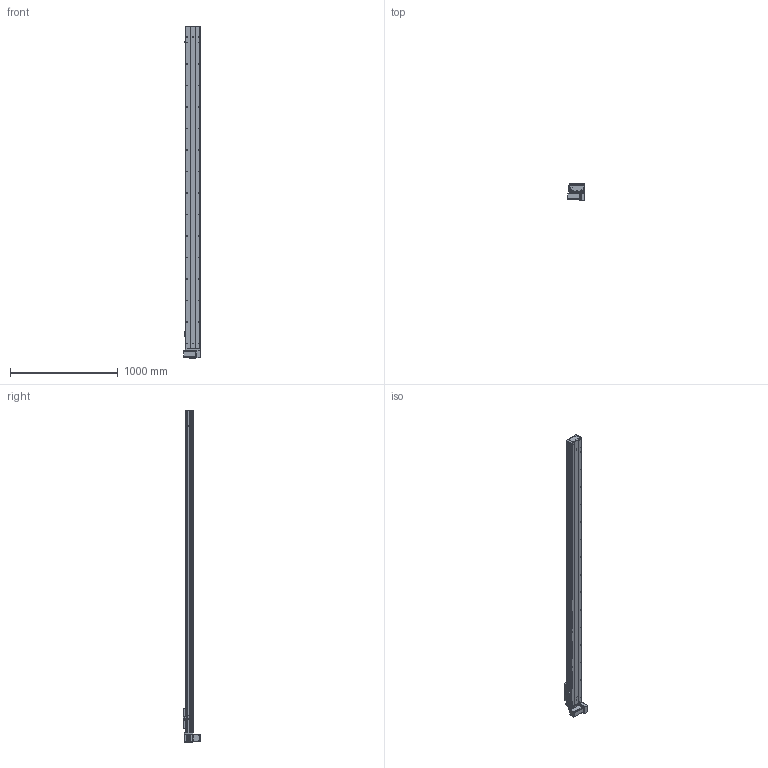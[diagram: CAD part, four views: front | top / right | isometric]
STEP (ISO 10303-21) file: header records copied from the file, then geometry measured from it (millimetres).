
FILE_DESCRIPTION (( 'STEP AP203' ), '1' );
FILE_NAME ('Y135CB-D90-S2700-BM-P400W.STEP', '2020-02-19T02:33:48', ( '微软用户' ), ( '微软中国' ), 'SwSTEP 2.0', 'SolidWorks 2017', '' );
FILE_SCHEMA (( 'CONFIG_CONTROL_DESIGN' ));
Length unit declared in the file: millimetre
Products named in the file (18): Y10B--々湍喘謫眊--666; san松下电机400不带刹车----; 00B-俋欶BM--; 5CB --掛极耜裔啣-; Y10B-耜蚾蟀諉啣----; C-詩湍揤踡え-陔; Y135CB-耜裔; Y135CB-D90-S2700-BM-P400W; 135CB--詩湍-CE; 135CB---遴掛极.-; Y100-135俋离換覜ん--; 35CB---喘謫眊楊擘啣; Y135C-陔俋离換覜結え-; 0B-埴倛裔啣; 5C--俋欶; 0B-源倛裔啣; C-雄赽釱--; 0B-萇儂楊擘啣
Assembly tree (21 placements, depth 2):
  Y135CB-D90-S2700-BM-P400W
    Y135CB-耜裔
    135CB---遴掛极.-
    35CB---喘謫眊楊擘啣
    0B-埴倛裔啣
    0B-源倛裔啣
    0B-萇儂楊擘啣
    san松下电机400不带刹车----
    5CB --掛极耜裔啣-  x2
    C-詩湍揤踡え-陔  x2
    135CB--詩湍-CE
    Y100-135俋离換覜ん--  x3
    Y135C-陔俋离換覜結え-
    5C--俋欶
    C-雄赽釱--
    Y10B--々湍喘謫眊--666
    00B-俋欶BM--
    Y10B-耜蚾蟀諉啣----
Bounding box: 157 x 163.3 x 3088 mm (x, y, z)
Volume: 8801087.9 mm3; surface area: 3488559.6 mm2
Topology: 21 solids, 21 shells, 981 faces, 2689 edges, 1782 vertices
Faces by surface type: cylinder 509, plane 456, cone 16
Entity records: 31167 total; most frequent: CARTESIAN_POINT 5208, DIRECTION 5181, ORIENTED_EDGE 4854, EDGE_CURVE 2427, AXIS2_PLACEMENT_3D 1903, VERTEX_POINT 1610, VECTOR 1375, LINE 1375
